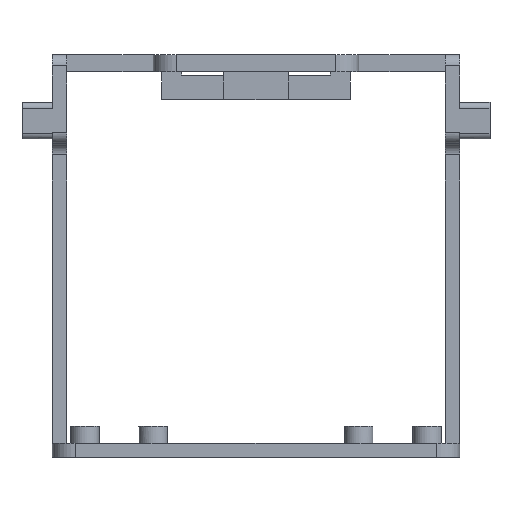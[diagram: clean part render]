
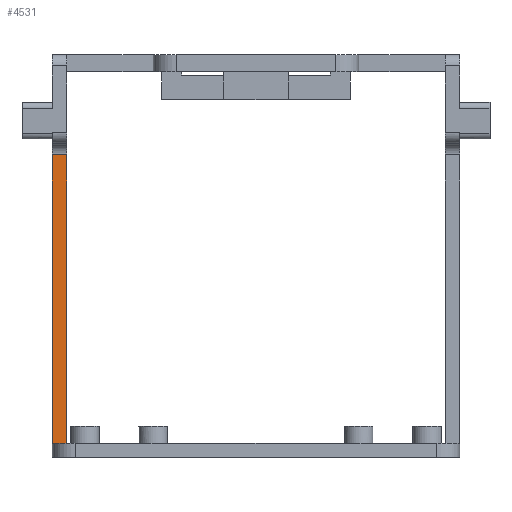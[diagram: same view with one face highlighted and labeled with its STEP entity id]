
A CAD part, front view. The second image highlights one B-rep face of the part: STEP entity #4531.
In plain terms, the highlighted planar face has unit normal (0, -1, 0).
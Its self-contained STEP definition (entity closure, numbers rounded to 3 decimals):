
#32 = PLANE('',#33);
#33 = AXIS2_PLACEMENT_3D('',#34,#35,#36);
#34 = CARTESIAN_POINT('',(-35.7,-12.,56.));
#35 = DIRECTION('',(1.,0.,-0.));
#36 = DIRECTION('',(0.,0.,1.));
#835 = VERTEX_POINT('',#836);
#836 = CARTESIAN_POINT('',(-35.7,-12.,109.));
#855 = CYLINDRICAL_SURFACE('',#856,2.);
#856 = AXIS2_PLACEMENT_3D('',#857,#858,#859);
#857 = CARTESIAN_POINT('',(-35.7,-14.,109.));
#858 = DIRECTION('',(1.,0.,-0.));
#859 = DIRECTION('',(0.,0.,1.));
#867 = EDGE_CURVE('',#868,#835,#870,.T.);
#868 = VERTEX_POINT('',#869);
#869 = CARTESIAN_POINT('',(-35.7,-12.,58.5));
#870 = SURFACE_CURVE('',#871,(#875,#882),.PCURVE_S1.);
#871 = LINE('',#872,#873);
#872 = CARTESIAN_POINT('',(-35.7,-12.,56.));
#873 = VECTOR('',#874,1.);
#874 = DIRECTION('',(0.,0.,1.));
#875 = PCURVE('',#32,#876);
#876 = DEFINITIONAL_REPRESENTATION('',(#877),#881);
#877 = LINE('',#878,#879);
#878 = CARTESIAN_POINT('',(0.,0.));
#879 = VECTOR('',#880,1.);
#880 = DIRECTION('',(1.,0.));
#881 = ( GEOMETRIC_REPRESENTATION_CONTEXT(2) 
PARAMETRIC_REPRESENTATION_CONTEXT() REPRESENTATION_CONTEXT('2D SPACE',''
  ) );
#882 = PCURVE('',#883,#888);
#883 = PLANE('',#884);
#884 = AXIS2_PLACEMENT_3D('',#885,#886,#887);
#885 = CARTESIAN_POINT('',(-35.7,-12.,56.));
#886 = DIRECTION('',(-0.,1.,0.));
#887 = DIRECTION('',(0.,0.,1.));
#888 = DEFINITIONAL_REPRESENTATION('',(#889),#893);
#889 = LINE('',#890,#891);
#890 = CARTESIAN_POINT('',(0.,0.));
#891 = VECTOR('',#892,1.);
#892 = DIRECTION('',(1.,0.));
#893 = ( GEOMETRIC_REPRESENTATION_CONTEXT(2) 
PARAMETRIC_REPRESENTATION_CONTEXT() REPRESENTATION_CONTEXT('2D SPACE',''
  ) );
#911 = PLANE('',#912);
#912 = AXIS2_PLACEMENT_3D('',#913,#914,#915);
#913 = CARTESIAN_POINT('',(-35.7,-29.,58.5));
#914 = DIRECTION('',(0.,0.,1.));
#915 = DIRECTION('',(1.,0.,-0.));
#1741 = PLANE('',#1742);
#1742 = AXIS2_PLACEMENT_3D('',#1743,#1744,#1745);
#1743 = CARTESIAN_POINT('',(-33.2,-12.,56.));
#1744 = DIRECTION('',(1.,0.,-0.));
#1745 = DIRECTION('',(0.,0.,1.));
#4482 = EDGE_CURVE('',#835,#4483,#4485,.T.);
#4483 = VERTEX_POINT('',#4484);
#4484 = CARTESIAN_POINT('',(-33.2,-12.,109.));
#4485 = SURFACE_CURVE('',#4486,(#4490,#4497),.PCURVE_S1.);
#4486 = LINE('',#4487,#4488);
#4487 = CARTESIAN_POINT('',(-35.7,-12.,109.));
#4488 = VECTOR('',#4489,1.);
#4489 = DIRECTION('',(1.,0.,-0.));
#4490 = PCURVE('',#855,#4491);
#4491 = DEFINITIONAL_REPRESENTATION('',(#4492),#4496);
#4492 = LINE('',#4493,#4494);
#4493 = CARTESIAN_POINT('',(-1.571,0.));
#4494 = VECTOR('',#4495,1.);
#4495 = DIRECTION('',(-0.,1.));
#4496 = ( GEOMETRIC_REPRESENTATION_CONTEXT(2) 
PARAMETRIC_REPRESENTATION_CONTEXT() REPRESENTATION_CONTEXT('2D SPACE',''
  ) );
#4497 = PCURVE('',#883,#4498);
#4498 = DEFINITIONAL_REPRESENTATION('',(#4499),#4503);
#4499 = LINE('',#4500,#4501);
#4500 = CARTESIAN_POINT('',(53.,0.));
#4501 = VECTOR('',#4502,1.);
#4502 = DIRECTION('',(0.,1.));
#4503 = ( GEOMETRIC_REPRESENTATION_CONTEXT(2) 
PARAMETRIC_REPRESENTATION_CONTEXT() REPRESENTATION_CONTEXT('2D SPACE',''
  ) );
#4531 = ADVANCED_FACE('',(#4532),#883,.F.);
#4532 = FACE_BOUND('',#4533,.F.);
#4533 = EDGE_LOOP('',(#4534,#4557,#4576,#4577));
#4534 = ORIENTED_EDGE('',*,*,#4535,.F.);
#4535 = EDGE_CURVE('',#4536,#4483,#4538,.T.);
#4536 = VERTEX_POINT('',#4537);
#4537 = CARTESIAN_POINT('',(-33.2,-12.,58.5));
#4538 = SURFACE_CURVE('',#4539,(#4543,#4550),.PCURVE_S1.);
#4539 = LINE('',#4540,#4541);
#4540 = CARTESIAN_POINT('',(-33.2,-12.,56.));
#4541 = VECTOR('',#4542,1.);
#4542 = DIRECTION('',(0.,0.,1.));
#4543 = PCURVE('',#883,#4544);
#4544 = DEFINITIONAL_REPRESENTATION('',(#4545),#4549);
#4545 = LINE('',#4546,#4547);
#4546 = CARTESIAN_POINT('',(0.,2.5));
#4547 = VECTOR('',#4548,1.);
#4548 = DIRECTION('',(1.,0.));
#4549 = ( GEOMETRIC_REPRESENTATION_CONTEXT(2) 
PARAMETRIC_REPRESENTATION_CONTEXT() REPRESENTATION_CONTEXT('2D SPACE',''
  ) );
#4550 = PCURVE('',#1741,#4551);
#4551 = DEFINITIONAL_REPRESENTATION('',(#4552),#4556);
#4552 = LINE('',#4553,#4554);
#4553 = CARTESIAN_POINT('',(0.,0.));
#4554 = VECTOR('',#4555,1.);
#4555 = DIRECTION('',(1.,0.));
#4556 = ( GEOMETRIC_REPRESENTATION_CONTEXT(2) 
PARAMETRIC_REPRESENTATION_CONTEXT() REPRESENTATION_CONTEXT('2D SPACE',''
  ) );
#4557 = ORIENTED_EDGE('',*,*,#4558,.F.);
#4558 = EDGE_CURVE('',#868,#4536,#4559,.T.);
#4559 = SURFACE_CURVE('',#4560,(#4564,#4570),.PCURVE_S1.);
#4560 = LINE('',#4561,#4562);
#4561 = CARTESIAN_POINT('',(-35.7,-12.,58.5));
#4562 = VECTOR('',#4563,1.);
#4563 = DIRECTION('',(1.,0.,-0.));
#4564 = PCURVE('',#883,#4565);
#4565 = DEFINITIONAL_REPRESENTATION('',(#4566),#4569);
#4566 = B_SPLINE_CURVE_WITH_KNOTS('',1,(#4567,#4568),.UNSPECIFIED.,.F.,
  .F.,(2,2),(0.,2.5),.PIECEWISE_BEZIER_KNOTS.);
#4567 = CARTESIAN_POINT('',(2.5,0.));
#4568 = CARTESIAN_POINT('',(2.5,2.5));
#4569 = ( GEOMETRIC_REPRESENTATION_CONTEXT(2) 
PARAMETRIC_REPRESENTATION_CONTEXT() REPRESENTATION_CONTEXT('2D SPACE',''
  ) );
#4570 = PCURVE('',#911,#4571);
#4571 = DEFINITIONAL_REPRESENTATION('',(#4572),#4575);
#4572 = B_SPLINE_CURVE_WITH_KNOTS('',1,(#4573,#4574),.UNSPECIFIED.,.F.,
  .F.,(2,2),(0.,2.5),.PIECEWISE_BEZIER_KNOTS.);
#4573 = CARTESIAN_POINT('',(0.,17.));
#4574 = CARTESIAN_POINT('',(2.5,17.));
#4575 = ( GEOMETRIC_REPRESENTATION_CONTEXT(2) 
PARAMETRIC_REPRESENTATION_CONTEXT() REPRESENTATION_CONTEXT('2D SPACE',''
  ) );
#4576 = ORIENTED_EDGE('',*,*,#867,.T.);
#4577 = ORIENTED_EDGE('',*,*,#4482,.T.);
